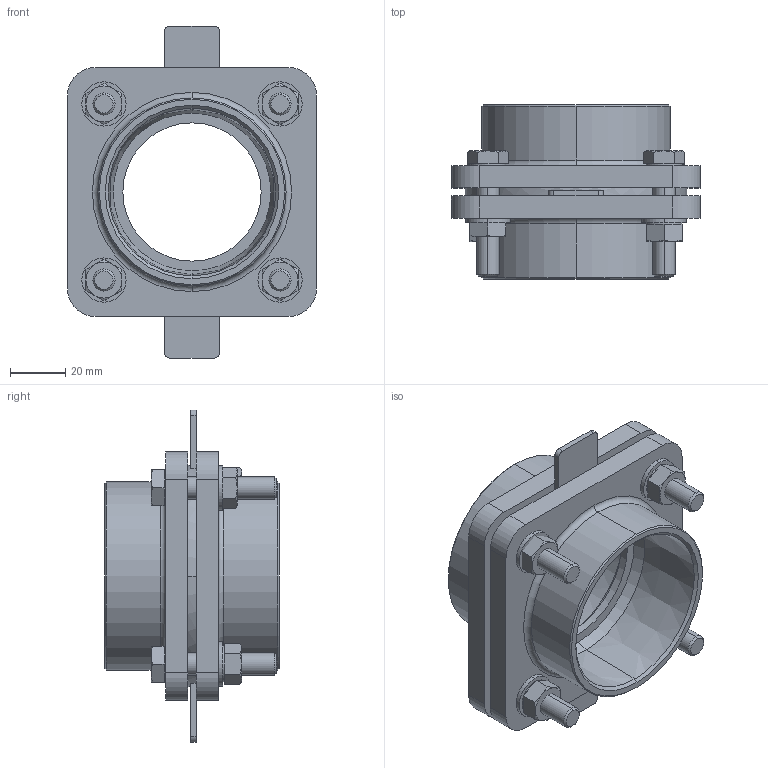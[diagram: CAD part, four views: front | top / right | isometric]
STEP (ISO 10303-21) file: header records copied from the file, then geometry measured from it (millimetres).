
FILE_DESCRIPTION (( 'STEP AP214' ), '1' );
FILE_NAME ('KP_F16-63FF.step', '2012-09-24T15:01:42', ( '' ), ( '' ), 'SwSTEP 2.0', 'SolidWorks 2012', '' );
FILE_SCHEMA (( 'AUTOMOTIVE_DESIGN' ));
Length unit declared in the file: millimetre
Products named in the file (1): KP_F16-63FF
Bounding box: 90 x 63 x 120 mm (x, y, z)
Volume: 140165.3 mm3; surface area: 66947.9 mm2
Topology: 15 solids, 15 shells, 340 faces, 744 edges, 440 vertices
Faces by surface type: plane 148, cylinder 92, cone 88, torus 12
Entity records: 13540 total; most frequent: CARTESIAN_POINT 2069, DIRECTION 1658, ORIENTED_EDGE 1488, EDGE_CURVE 744, AXIS2_PLACEMENT_3D 669, VERTEX_POINT 440, EDGE_LOOP 384, UNCERTAINTY_MEASURE_WITH_UNIT 357
